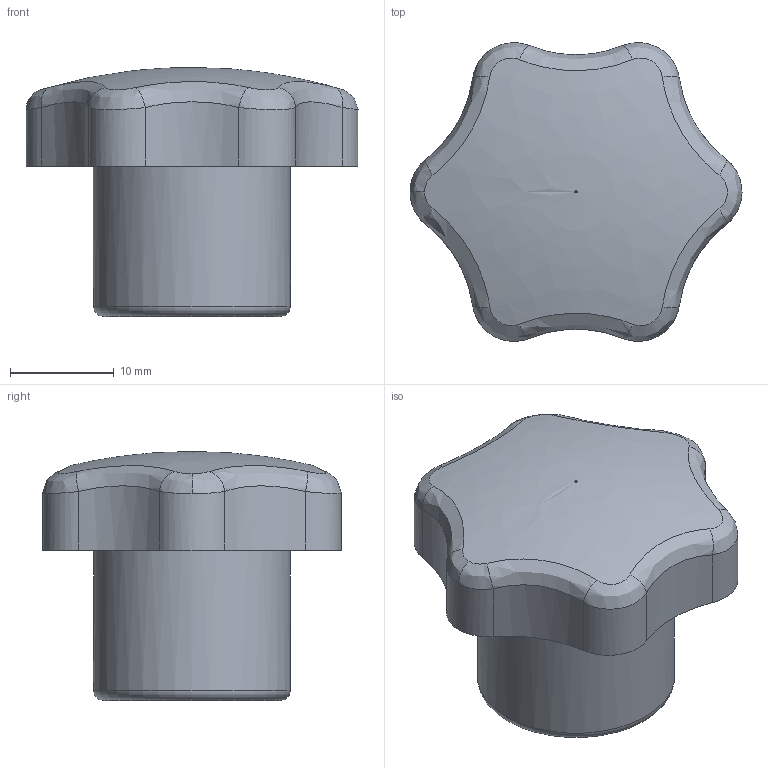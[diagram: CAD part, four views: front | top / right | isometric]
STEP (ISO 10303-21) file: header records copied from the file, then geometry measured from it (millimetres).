
FILE_DESCRIPTION( ('This file contains a STEP AP42 implementation' ,'as created by ZW3D STEP Interface translator.') ,'2;1' );
FILE_NAME( 'Rekojesc gwiazdowa z gwintem wewnetrznym 32.stp' ,'26 320. 71119', (''), ('ZWCAD Software Co.'), 'Version 1.0', 'ZW3D to STEP translator', '' );
FILE_SCHEMA(('AP242_MANAGED_MODEL_BASED_3D_ENGINEERING_MIM_LF { 1 0 10303 442 1 1 4 }'));
Length unit declared in the file: millimetre
Products named in the file (1): 0
Bounding box: 32 x 28.78 x 24 mm (x, y, z)
Volume: 8667.9 mm3; surface area: 4616.2 mm2
Topology: 2 solids, 2 shells, 77 faces, 201 edges, 128 vertices
Faces by surface type: plane 28, cylinder 18, bspline 14, torus 13, cone 4
Full cylindrical faces by diameter (mm): 4.2 x2, 8 x2, 19 x1, 25 x1
Entity records: 3340 total; most frequent: CARTESIAN_POINT 1496, ORIENTED_EDGE 396, DIRECTION 328, EDGE_CURVE 198, AXIS2_PLACEMENT_3D 129, VERTEX_POINT 128, EDGE_LOOP 80, FACE_OUTER_BOUND 77
